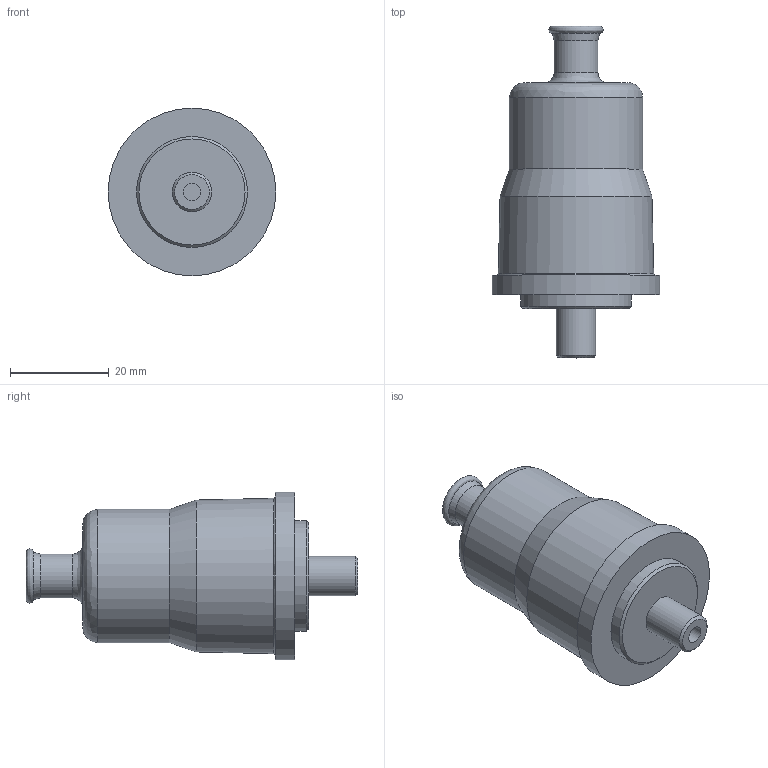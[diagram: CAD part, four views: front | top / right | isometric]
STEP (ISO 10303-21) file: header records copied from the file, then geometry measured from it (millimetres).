
FILE_DESCRIPTION(('STEP AP203'),'2;1');
FILE_NAME('OMTI-D.stp','2009-03-24T10:47:45',(''),(''),'2008.1.107','THINKDESIGN','');
FILE_SCHEMA(('CONFIG_CONTROL_DESIGN'));
Length unit declared in the file: millimetre
Bounding box: 34 x 67.3 x 34 mm (x, y, z)
Volume: 30920 mm3; surface area: 7906.8 mm2
Topology: 3 solids, 3 shells, 24 faces, 62 edges, 46 vertices
Faces by surface type: bspline 9, plane 8, cylinder 7
Full cylindrical faces by diameter (mm): 3.5 x1, 4 x1, 8 x1, 8.9 x1, 22.5 x1, 27 x1, 34 x1
Entity records: 1246 total; most frequent: CARTESIAN_POINT 527, DIRECTION 142, ORIENTED_EDGE 124, AXIS2_PLACEMENT_3D 65, EDGE_CURVE 62, CIRCLE 50, VERTEX_POINT 46, EDGE_LOOP 30
